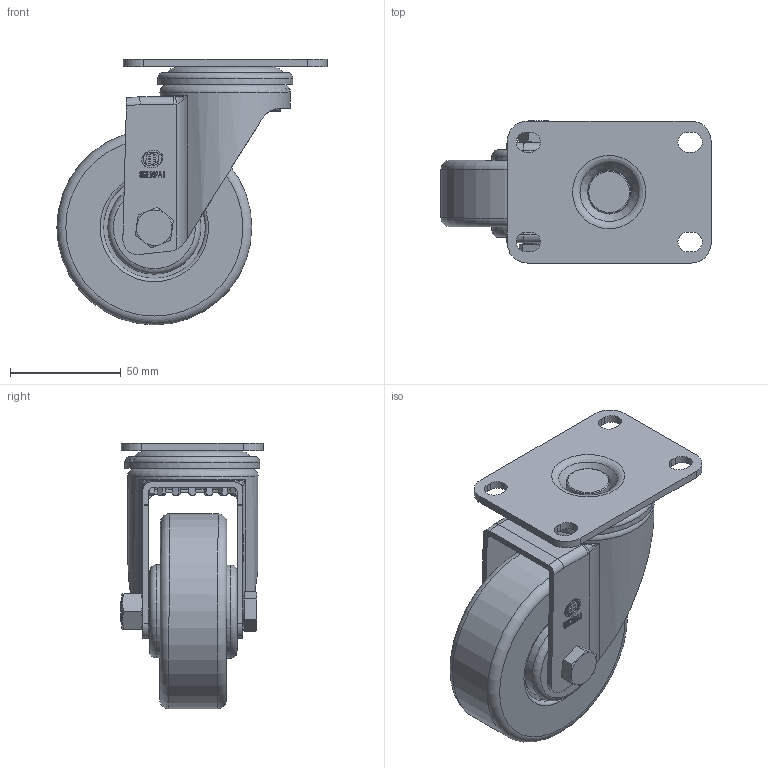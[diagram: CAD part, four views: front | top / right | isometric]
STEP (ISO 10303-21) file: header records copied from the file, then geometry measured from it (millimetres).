
FILE_DESCRIPTION(/* description */ (''),/* implementation_level */ '2;1');
FILE_NAME(/* name */ '20A10_3,5_F.stp',/* time_stamp */ '2022-09-03T10:32:18+08:00',/* author */ (''),/* organization */ (''),/* preprocessor_version */ 'ST-DEVELOPER v14',/* originating_system */ 'SIEMENS PLM Software NX 8.0',/* authorisation */ '');
FILE_SCHEMA (('AUTOMOTIVE_DESIGN { 1 0 10303 214 3 1 1 1 }'));
Length unit declared in the file: millimetre
Products named in the file (1): 20A10_3,5_F
Bounding box: 122 x 64.25 x 120 mm (x, y, z)
Volume: 246056.1 mm3; surface area: 89319.4 mm2
Topology: 1 solids, 2 shells, 694 faces, 2019 edges, 1342 vertices
Faces by surface type: plane 322, cylinder 162, torus 69, sphere 69, cone 63, bspline 9
Full cylindrical faces by diameter (mm): 10 x2, 10.2 x1, 10.3 x2, 11.2 x1, 12 x1, 12.2 x1, 12.496 x1, 13.2 x1, 13.6 x3, 16 x1, 20.8 x4, 23.2 x2, 24 x1, 30.122 x1, 33 x2, 41 x2, 42 x2, 45.996 x1, 46 x2, 54 x1, 56 x1, 59 x1, 61 x1, 88 x1
Entity records: 27284 total; most frequent: CARTESIAN_POINT 11254, ORIENTED_EDGE 3474, DIRECTION 2936, EDGE_CURVE 1737, VERTEX_POINT 1205, AXIS2_PLACEMENT_3D 1182, EDGE_LOOP 892, ADVANCED_FACE 691
